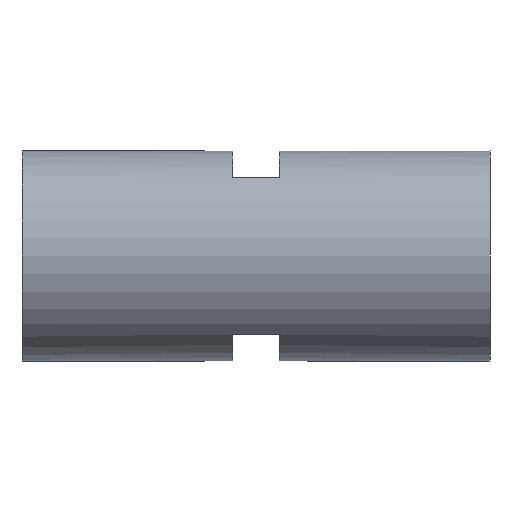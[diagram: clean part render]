
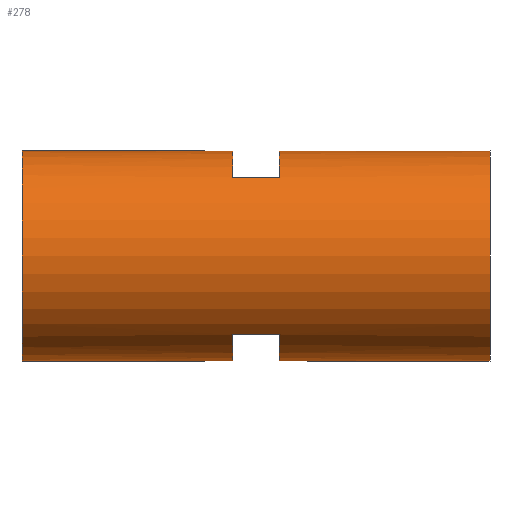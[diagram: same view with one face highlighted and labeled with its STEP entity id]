
A CAD part, left-side view. The second image highlights one B-rep face of the part: STEP entity #278.
In plain terms, the highlighted cylindrical face has radius 3.6 mm (diameter 7.2 mm), a full revolution.
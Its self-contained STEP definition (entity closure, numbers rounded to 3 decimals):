
#22=CIRCLE('',#311,3.6);
#23=CIRCLE('',#312,3.6);
#24=CIRCLE('',#313,3.6);
#25=CIRCLE('',#314,3.6);
#26=CIRCLE('',#315,3.6);
#27=CIRCLE('',#316,3.6);
#39=CYLINDRICAL_SURFACE('',#310,3.6);
#55=ORIENTED_EDGE('',*,*,#123,.T.);
#56=ORIENTED_EDGE('',*,*,#124,.T.);
#57=ORIENTED_EDGE('',*,*,#120,.T.);
#58=ORIENTED_EDGE('',*,*,#125,.T.);
#59=ORIENTED_EDGE('',*,*,#126,.T.);
#60=ORIENTED_EDGE('',*,*,#127,.T.);
#61=ORIENTED_EDGE('',*,*,#116,.T.);
#62=ORIENTED_EDGE('',*,*,#128,.T.);
#63=ORIENTED_EDGE('',*,*,#129,.F.);
#64=ORIENTED_EDGE('',*,*,#130,.T.);
#116=EDGE_CURVE('',#147,#150,#176,.T.);
#120=EDGE_CURVE('',#152,#154,#180,.T.);
#123=EDGE_CURVE('',#157,#158,#181,.F.);
#124=EDGE_CURVE('',#158,#152,#22,.T.);
#125=EDGE_CURVE('',#154,#157,#23,.T.);
#126=EDGE_CURVE('',#159,#160,#182,.F.);
#127=EDGE_CURVE('',#160,#147,#24,.T.);
#128=EDGE_CURVE('',#150,#159,#25,.T.);
#129=EDGE_CURVE('',#161,#161,#26,.T.);
#130=EDGE_CURVE('',#162,#162,#27,.T.);
#147=VERTEX_POINT('',#431);
#150=VERTEX_POINT('',#436);
#152=VERTEX_POINT('',#441);
#154=VERTEX_POINT('',#445);
#157=VERTEX_POINT('',#454);
#158=VERTEX_POINT('',#455);
#159=VERTEX_POINT('',#459);
#160=VERTEX_POINT('',#460);
#161=VERTEX_POINT('',#464);
#162=VERTEX_POINT('',#466);
#176=LINE('',#437,#192);
#180=LINE('',#446,#196);
#181=LINE('',#453,#197);
#182=LINE('',#458,#198);
#192=VECTOR('',#347,1000.);
#196=VECTOR('',#353,1000.);
#197=VECTOR('',#362,1000.);
#198=VECTOR('',#367,1000.);
#209=EDGE_LOOP('',(#55,#56,#57,#58));
#210=EDGE_LOOP('',(#59,#60,#61,#62));
#211=EDGE_LOOP('',(#63));
#212=EDGE_LOOP('',(#64));
#239=FACE_BOUND('',#209,.T.);
#240=FACE_BOUND('',#210,.T.);
#241=FACE_BOUND('',#211,.T.);
#242=FACE_BOUND('',#212,.T.);
#278=ADVANCED_FACE('',(#239,#240,#241,#242),#39,.T.);
#310=AXIS2_PLACEMENT_3D('',#452,#360,#361);
#311=AXIS2_PLACEMENT_3D('',#456,#363,#364);
#312=AXIS2_PLACEMENT_3D('',#457,#365,#366);
#313=AXIS2_PLACEMENT_3D('',#461,#368,#369);
#314=AXIS2_PLACEMENT_3D('',#462,#370,#371);
#315=AXIS2_PLACEMENT_3D('',#463,#372,#373);
#316=AXIS2_PLACEMENT_3D('',#465,#374,#375);
#347=DIRECTION('',(0.,-1.,0.));
#353=DIRECTION('',(0.,-1.,0.));
#360=DIRECTION('',(0.,-1.,0.));
#361=DIRECTION('',(0.,0.,-1.));
#362=DIRECTION('',(0.,-1.,0.));
#363=DIRECTION('',(0.,1.,0.));
#364=DIRECTION('',(-1.,0.,0.));
#365=DIRECTION('',(0.,-1.,0.));
#366=DIRECTION('',(0.,0.,-1.));
#367=DIRECTION('',(0.,-1.,0.));
#368=DIRECTION('',(0.,1.,0.));
#369=DIRECTION('',(-1.,0.,0.));
#370=DIRECTION('',(0.,-1.,0.));
#371=DIRECTION('',(0.,0.,-1.));
#372=DIRECTION('',(0.,1.,0.));
#373=DIRECTION('',(1.,0.,0.));
#374=DIRECTION('',(0.,1.,0.));
#375=DIRECTION('',(1.,0.,0.));
#431=CARTESIAN_POINT('',(2.4,8.8,2.683));
#436=CARTESIAN_POINT('',(2.4,7.2,2.683));
#437=CARTESIAN_POINT('',(2.4,16.,2.683));
#441=CARTESIAN_POINT('',(-2.4,8.8,-2.683));
#445=CARTESIAN_POINT('',(-2.4,7.2,-2.683));
#446=CARTESIAN_POINT('',(-2.4,16.,-2.683));
#452=CARTESIAN_POINT('',(0.,16.,0.));
#453=CARTESIAN_POINT('',(2.4,16.,-2.683));
#454=CARTESIAN_POINT('',(2.4,7.2,-2.683));
#455=CARTESIAN_POINT('',(2.4,8.8,-2.683));
#456=CARTESIAN_POINT('',(0.,8.8,0.));
#457=CARTESIAN_POINT('',(0.,7.2,0.));
#458=CARTESIAN_POINT('',(-2.4,16.,2.683));
#459=CARTESIAN_POINT('',(-2.4,7.2,2.683));
#460=CARTESIAN_POINT('',(-2.4,8.8,2.683));
#461=CARTESIAN_POINT('',(0.,8.8,0.));
#462=CARTESIAN_POINT('',(0.,7.2,0.));
#463=CARTESIAN_POINT('',(0.,16.,0.));
#464=CARTESIAN_POINT('',(3.6,16.,0.));
#465=CARTESIAN_POINT('',(0.,0.,0.));
#466=CARTESIAN_POINT('',(3.6,0.,0.));
